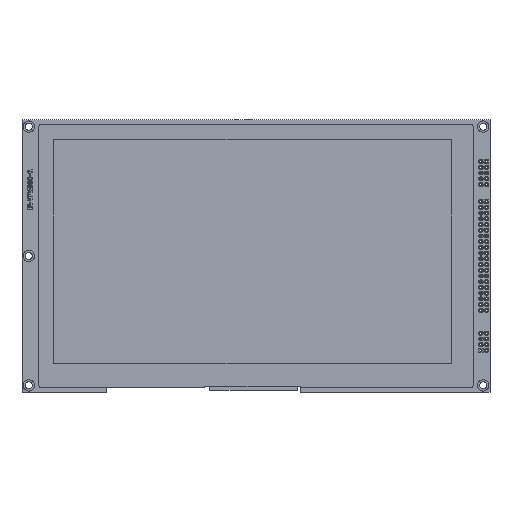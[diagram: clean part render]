
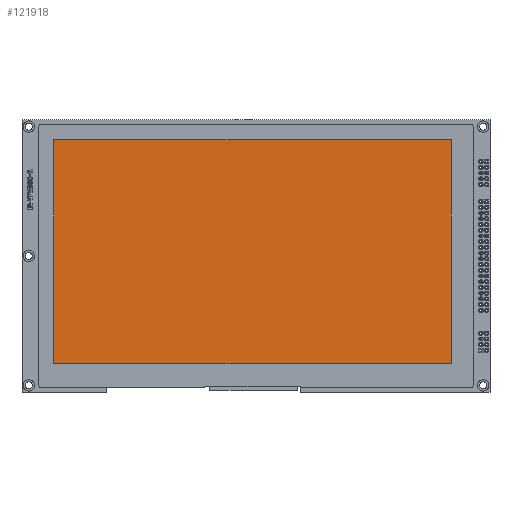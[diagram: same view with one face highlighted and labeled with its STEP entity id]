
A CAD part, top view. The second image highlights one B-rep face of the part: STEP entity #121918.
In plain terms, the highlighted free-form (B-spline) face has degree [1, 1] with [2, 2] control points.
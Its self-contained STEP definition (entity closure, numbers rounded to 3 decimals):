
#108=(GEOMETRIC_REPRESENTATION_CONTEXT(2)PARAMETRIC_REPRESENTATION_CONTEXT()REPRESENTATION_CONTEXT('',''));
#44563=CARTESIAN_POINT('',(14.05,112.06,0.8));
#44564=CARTESIAN_POINT('',(190.69,112.06,0.8));
#44565=CARTESIAN_POINT('',(14.05,112.06,7.2));
#44566=CARTESIAN_POINT('',(190.69,112.06,7.2));
#44567=B_SPLINE_SURFACE_WITH_KNOTS('',1,1,((#44563,#44564),(#44565,#44566)),.UNSPECIFIED.,.F.,.F.,.U.,(2,2),(2,2),(-0.006,0.),(0.014,0.191),.UNSPECIFIED.);
#44586=CARTESIAN_POINT('',(190.69,12.7,7.2));
#44587=CARTESIAN_POINT('',(190.69,112.06,7.2));
#44588=CARTESIAN_POINT('',(190.69,12.7,0.8));
#44589=CARTESIAN_POINT('',(190.69,112.06,0.8));
#44590=B_SPLINE_SURFACE_WITH_KNOTS('',1,1,((#44586,#44587),(#44588,#44589)),.UNSPECIFIED.,.F.,.F.,.U.,(2,2),(2,2),(0.,0.006),(0.013,0.112),.UNSPECIFIED.);
#44609=CARTESIAN_POINT('',(14.05,12.7,7.2));
#44610=CARTESIAN_POINT('',(190.69,12.7,7.2));
#44611=CARTESIAN_POINT('',(14.05,12.7,0.8));
#44612=CARTESIAN_POINT('',(190.69,12.7,0.8));
#44613=B_SPLINE_SURFACE_WITH_KNOTS('',1,1,((#44609,#44610),(#44611,#44612)),.UNSPECIFIED.,.F.,.F.,.U.,(2,2),(2,2),(0.,0.006),(0.014,0.191),.UNSPECIFIED.);
#44630=CARTESIAN_POINT('',(14.05,12.7,0.8));
#44631=CARTESIAN_POINT('',(14.05,112.06,0.8));
#44632=CARTESIAN_POINT('',(14.05,12.7,7.2));
#44633=CARTESIAN_POINT('',(14.05,112.06,7.2));
#44634=B_SPLINE_SURFACE_WITH_KNOTS('',1,1,((#44630,#44631),(#44632,#44633)),.UNSPECIFIED.,.F.,.F.,.U.,(2,2),(2,2),(-0.006,0.),(0.013,0.112),.UNSPECIFIED.);
#121752=CARTESIAN_POINT('',(14.05,112.06,7.2));
#121753=VERTEX_POINT('',#121752);
#121770=CARTESIAN_POINT('',(190.69,112.06,7.2));
#121771=VERTEX_POINT('',#121770);
#121772=CARTESIAN_POINT('',(190.69,12.7,7.2));
#121773=CARTESIAN_POINT('',(190.69,112.06,7.2));
#121774=CARTESIAN_POINT('',(14.05,12.7,7.2));
#121775=CARTESIAN_POINT('',(14.05,112.06,7.2));
#121776=B_SPLINE_SURFACE_WITH_KNOTS('',1,1,((#121772,#121773),(#121774,#121775)),.UNSPECIFIED.,.F.,.F.,.U.,(2,2),(2,2),(-0.191,-0.014),(0.013,0.112),.UNSPECIFIED.);
#121777=CARTESIAN_POINT('',(0.,0.014));
#121778=CARTESIAN_POINT('',(0.,0.191));
#121779=B_SPLINE_CURVE_WITH_KNOTS('',1,(#121777,#121778),.UNSPECIFIED.,.F.,.F.,(2,2),(0.014,0.191),.UNSPECIFIED.);
#121780=DEFINITIONAL_REPRESENTATION('',(#121779),#108);
#121781=PCURVE('',#44567,#121780);
#121782=CARTESIAN_POINT('',(-0.014,0.112));
#121783=CARTESIAN_POINT('',(-0.191,0.112));
#121784=B_SPLINE_CURVE_WITH_KNOTS('',1,(#121782,#121783),.UNSPECIFIED.,.F.,.F.,(2,2),(0.014,0.191),.UNSPECIFIED.);
#121785=DEFINITIONAL_REPRESENTATION('',(#121784),#108);
#121786=PCURVE('',#121776,#121785);
#121787=CARTESIAN_POINT('',(14.05,112.06,7.2));
#121788=CARTESIAN_POINT('',(190.69,112.06,7.2));
#121789=B_SPLINE_CURVE_WITH_KNOTS('',1,(#121787,#121788),.UNSPECIFIED.,.F.,.F.,(2,2),(0.014,0.191),.UNSPECIFIED.);
#121790=INTERSECTION_CURVE('',#121789,(#121781,#121786),.PCURVE_S1.);
#121791=EDGE_CURVE('',#121753,#121771,#121790,.T.);
#121813=CARTESIAN_POINT('',(14.05,12.7,7.2));
#121814=VERTEX_POINT('',#121813);
#121831=CARTESIAN_POINT('',(0.,0.013));
#121832=CARTESIAN_POINT('',(0.,0.112));
#121833=B_SPLINE_CURVE_WITH_KNOTS('',1,(#121831,#121832),.UNSPECIFIED.,.F.,.F.,(2,2),(0.013,0.112),.UNSPECIFIED.);
#121834=DEFINITIONAL_REPRESENTATION('',(#121833),#108);
#121835=PCURVE('',#44634,#121834);
#121836=CARTESIAN_POINT('',(-0.014,0.013));
#121837=CARTESIAN_POINT('',(-0.014,0.112));
#121838=B_SPLINE_CURVE_WITH_KNOTS('',1,(#121836,#121837),.UNSPECIFIED.,.F.,.F.,(2,2),(0.013,0.112),.UNSPECIFIED.);
#121839=DEFINITIONAL_REPRESENTATION('',(#121838),#108);
#121840=PCURVE('',#121776,#121839);
#121841=CARTESIAN_POINT('',(14.05,12.7,7.2));
#121842=CARTESIAN_POINT('',(14.05,112.06,7.2));
#121843=B_SPLINE_CURVE_WITH_KNOTS('',1,(#121841,#121842),.UNSPECIFIED.,.F.,.F.,(2,2),(0.013,0.112),.UNSPECIFIED.);
#121844=INTERSECTION_CURVE('',#121843,(#121835,#121840),.PCURVE_S1.);
#121845=EDGE_CURVE('',#121814,#121753,#121844,.T.);
#121852=CARTESIAN_POINT('',(190.69,12.7,7.2));
#121853=VERTEX_POINT('',#121852);
#121870=CARTESIAN_POINT('',(0.,0.191));
#121871=CARTESIAN_POINT('',(0.,0.014));
#121872=B_SPLINE_CURVE_WITH_KNOTS('',1,(#121870,#121871),.UNSPECIFIED.,.F.,.F.,(2,2),(-0.191,-0.014),.UNSPECIFIED.);
#121873=DEFINITIONAL_REPRESENTATION('',(#121872),#108);
#121874=PCURVE('',#44613,#121873);
#121875=CARTESIAN_POINT('',(-0.191,0.013));
#121876=CARTESIAN_POINT('',(-0.014,0.013));
#121877=B_SPLINE_CURVE_WITH_KNOTS('',1,(#121875,#121876),.UNSPECIFIED.,.F.,.F.,(2,2),(-0.191,-0.014),.UNSPECIFIED.);
#121878=DEFINITIONAL_REPRESENTATION('',(#121877),#108);
#121879=PCURVE('',#121776,#121878);
#121880=CARTESIAN_POINT('',(190.69,12.7,7.2));
#121881=CARTESIAN_POINT('',(14.05,12.7,7.2));
#121882=B_SPLINE_CURVE_WITH_KNOTS('',1,(#121880,#121881),.UNSPECIFIED.,.F.,.F.,(2,2),(-0.191,-0.014),.UNSPECIFIED.);
#121883=INTERSECTION_CURVE('',#121882,(#121874,#121879),.PCURVE_S1.);
#121884=EDGE_CURVE('',#121853,#121814,#121883,.T.);
#121892=CARTESIAN_POINT('',(0.,0.112));
#121893=CARTESIAN_POINT('',(0.,0.013));
#121894=B_SPLINE_CURVE_WITH_KNOTS('',1,(#121892,#121893),.UNSPECIFIED.,.F.,.F.,(2,2),(-0.112,-0.013),.UNSPECIFIED.);
#121895=DEFINITIONAL_REPRESENTATION('',(#121894),#108);
#121896=PCURVE('',#44590,#121895);
#121897=CARTESIAN_POINT('',(-0.191,0.112));
#121898=CARTESIAN_POINT('',(-0.191,0.013));
#121899=B_SPLINE_CURVE_WITH_KNOTS('',1,(#121897,#121898),.UNSPECIFIED.,.F.,.F.,(2,2),(-0.112,-0.013),.UNSPECIFIED.);
#121900=DEFINITIONAL_REPRESENTATION('',(#121899),#108);
#121901=PCURVE('',#121776,#121900);
#121902=CARTESIAN_POINT('',(190.69,112.06,7.2));
#121903=CARTESIAN_POINT('',(190.69,12.7,7.2));
#121904=B_SPLINE_CURVE_WITH_KNOTS('',1,(#121902,#121903),.UNSPECIFIED.,.F.,.F.,(2,2),(-0.112,-0.013),.UNSPECIFIED.);
#121905=INTERSECTION_CURVE('',#121904,(#121896,#121901),.PCURVE_S1.);
#121906=EDGE_CURVE('',#121771,#121853,#121905,.T.);
#121912=ORIENTED_EDGE('',*,*,#121791,.F.);
#121913=ORIENTED_EDGE('',*,*,#121845,.F.);
#121914=ORIENTED_EDGE('',*,*,#121884,.F.);
#121915=ORIENTED_EDGE('',*,*,#121906,.F.);
#121916=EDGE_LOOP('',(#121912,#121913,#121914,#121915));
#121917=FACE_BOUND('',#121916,.T.);
#121918=ADVANCED_FACE('',(#121917),#121776,.F.);
